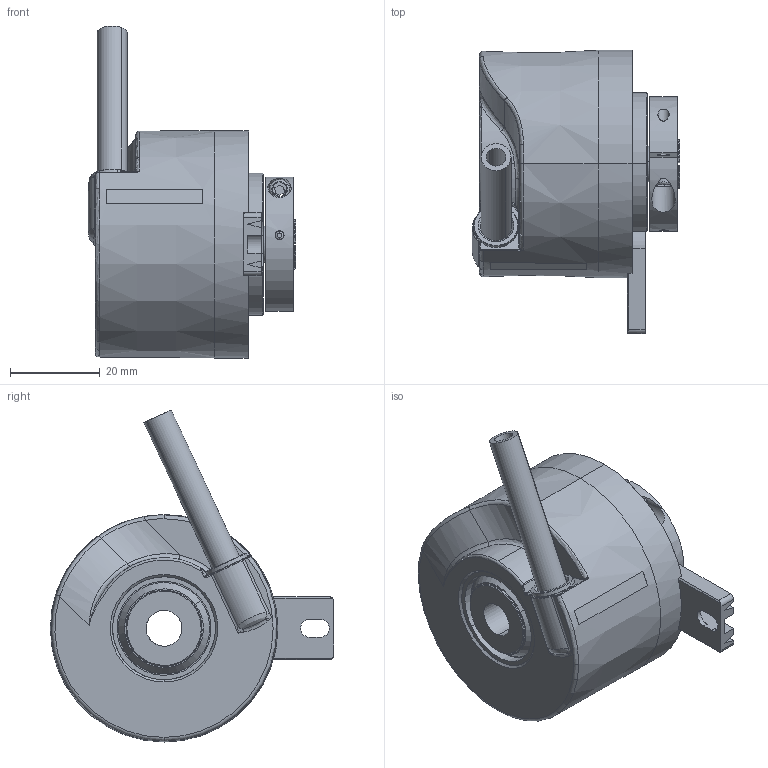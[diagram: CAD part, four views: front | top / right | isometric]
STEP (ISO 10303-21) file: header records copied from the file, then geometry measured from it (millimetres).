
FILE_DESCRIPTION (( 'STEP AP214' ), '1' );
FILE_NAME ('5020.29XE.XXXX.STEP', '2011-01-05T10:46:01', ( 'admin' ), ( 'Fritz Kübler GmbH' ), 'SwSTEP 2.0', 'SolidWorks 2009', '' );
FILE_SCHEMA (( 'AUTOMOTIVE_DESIGN' ));
Length unit declared in the file: millimetre
Products named in the file (1): 5020.29XE.XXXX
Bounding box: 46.3 x 63.3 x 74.14 mm (x, y, z)
Surface area: 17428.1 mm2 (no closed solid volume)
Topology: 0 solids, 13 shells, 195 faces, 579 edges, 389 vertices
Faces by surface type: cylinder 72, plane 62, torus 22, cone 20, bspline 19
Entity records: 11264 total; most frequent: CARTESIAN_POINT 3957, DIRECTION 1104, ORIENTED_EDGE 977, EDGE_CURVE 572, AXIS2_PLACEMENT_3D 426, VERTEX_POINT 389, VECTOR 252, LINE 252
